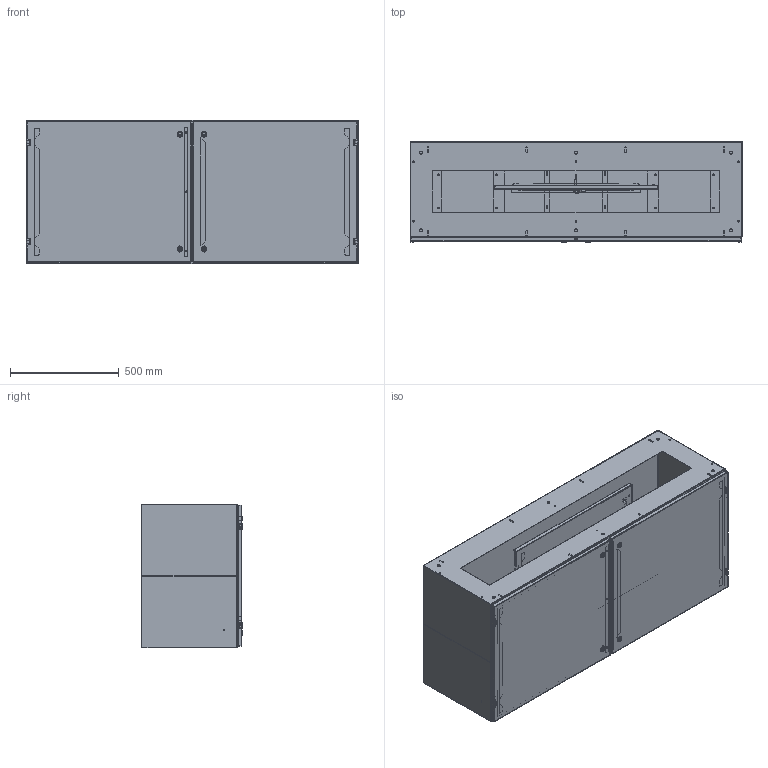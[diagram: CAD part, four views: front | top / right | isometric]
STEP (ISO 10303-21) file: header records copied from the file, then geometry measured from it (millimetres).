
FILE_DESCRIPTION( ( 'Unknown' ), '1' );
FILE_NAME( 'Q:/2000 SERIES/BASE UNITS/WEB DRAWINGS/STEP/2CSB266018.stp', 'Unknown', ( 'Unknown' ), ( 'Unknown' ), 'XStep 1.0', 'Unknown', ' ' );
FILE_SCHEMA( ( 'CONFIG_CONTROL_DESIGN' ) );
Length unit declared in the file: millimetre
Products named in the file (55): Assem1; Assem2; Assem3; Assem4; Assem5; Assem6; Assem7; Assem8; Assem9; 1; 2; 3; 4; 5; 6; 7; 8; 9; 10; 11; 12; 13; 14; 15; 16; 17; 18; 19; 20; 21; 22; 23; 24; 25; 26; 27; 28; 29; 30; 31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
Bounding box: 1524 x 463.11 x 660.4 mm (x, y, z)
Volume: 25073858.3 mm3; surface area: 27568196.4 mm2
Topology: 197 solids, 197 shells, 3791 faces, 9021 edges, 5798 vertices
Faces by surface type: plane 2426, cylinder 1094, bspline 244, torus 15, cone 12
Full cylindrical faces by diameter (mm): 5 x12, 5.537 x10, 5.969 x6, 6 x6, 6.096 x6, 6.35 x122, 7.137 x169, 7.938 x126, 9.804 x5, 9.83 x12, 12.7 x12, 13.335 x6, 15.875 x6, 16.002 x6, 19.5 x6, 19.939 x6, 25.4 x6
Entity records: 33176 total; most frequent: CARTESIAN_POINT 9195, DIRECTION 4354, ORIENTED_EDGE 4204, EDGE_CURVE 2102, AXIS2_PLACEMENT_3D 1528, VERTEX_POINT 1421, LINE 1298, VECTOR 1298
